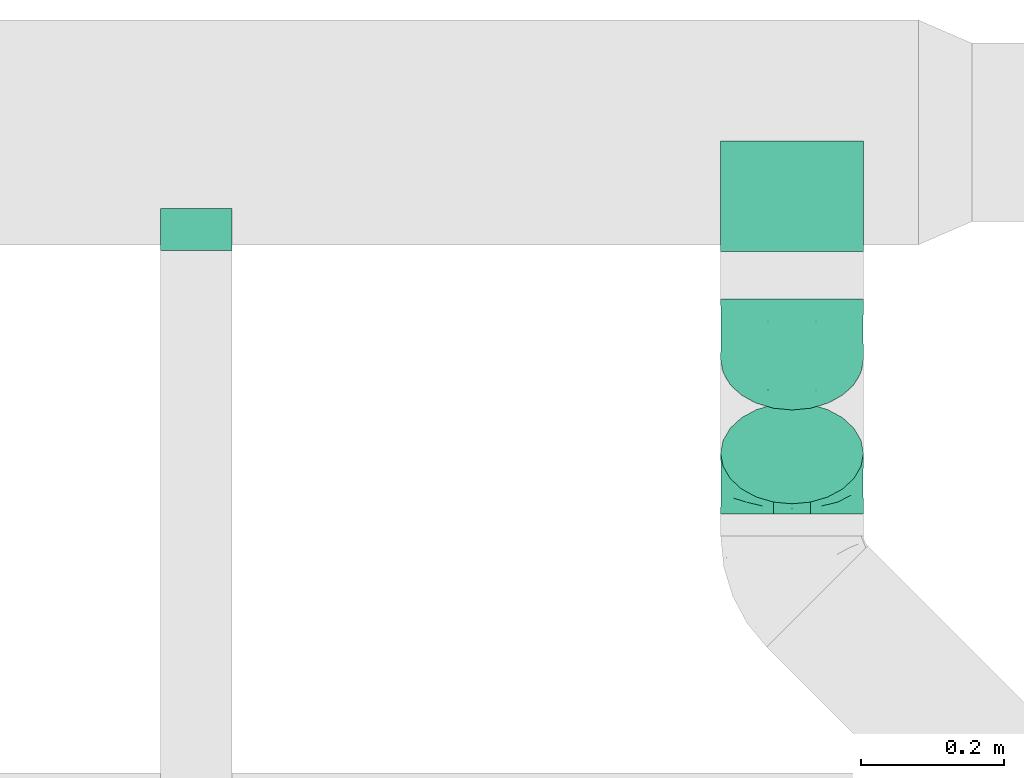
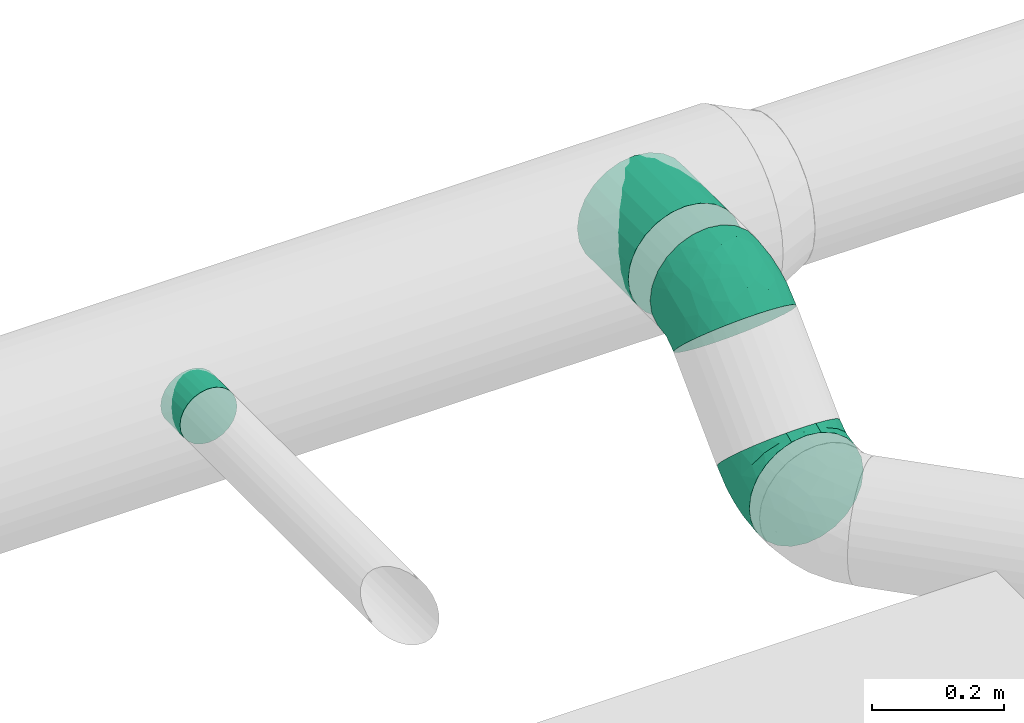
# One storey, part 14 of 16: 4 flow fittings.
"""IFC2X3 building model written with IfcOpenShell, lengths in millimetres."""

from ifc_helpers import new_model, entity, si_unit, converted_unit, derived_unit, direction, frame, origin_with_axes, place, context, subcontext, project, spatial, open_shell, surface_model, source, transform, mapped, type_object, element, save


model = new_model("IFC2X3")

# Units and contexts
model_context = context("Model", 3, precision=0.01, world=frame((0.0, 4.29681676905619e-09, 0.0)), true_north=direction((4.01073788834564e-13, 1.0)))
plan_context = context("Plan", 3, precision=0.01, world=frame((0.0, 4.29681676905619e-09, 0.0)), true_north=direction((4.01073788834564e-13, 1.0)))
body_context = subcontext(model_context, "Body", "Model", "MODEL_VIEW")
ifc_project = project(units=[converted_unit("PLANEANGLEUNIT", "DEGREE", entity("IfcPositiveLengthMeasure", 0.0174532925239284), si_unit("PLANEANGLEUNIT", "RADIAN"), dimensions=[0, 0, 0, 0, 0, 0, 0]), si_unit("AREAUNIT", "SQUARE_METRE"), si_unit("LENGTHUNIT", "METRE", prefix="MILLI"), si_unit("MASSUNIT", "GRAM", prefix="KILO"), si_unit("POWERUNIT", "WATT"), si_unit("PRESSUREUNIT", "PASCAL"), si_unit("FORCEUNIT", "NEWTON", prefix="KILO"), si_unit("ELECTRICVOLTAGEUNIT", "VOLT"), si_unit("ELECTRICCURRENTUNIT", "AMPERE"), si_unit("THERMODYNAMICTEMPERATUREUNIT", "DEGREE_CELSIUS"), si_unit("TIMEUNIT", "SECOND"), si_unit("VOLUMEUNIT", "CUBIC_METRE"), derived_unit("LINEARVELOCITYUNIT", [(si_unit("LENGTHUNIT", "METRE"), 1), (si_unit("TIMEUNIT", "SECOND"), -1)]), derived_unit("VOLUMETRICFLOWRATEUNIT", [(si_unit("VOLUMEUNIT", "CUBIC_METRE"), 1), (si_unit("TIMEUNIT", "SECOND"), -1)]), derived_unit("THERMALTRANSMITTANCEUNIT", [(si_unit("POWERUNIT", "WATT"), 1), (si_unit("THERMODYNAMICTEMPERATUREUNIT", "KELVIN"), -1), (si_unit("AREAUNIT", "SQUARE_METRE"), -1)]), derived_unit("SOUNDPRESSUREUNIT", [(si_unit("PRESSUREUNIT", "PASCAL"), 1)])], contexts=[model_context, plan_context])

# Site, building, storey
site_placement = place(None, frame((0.0, -4.29681676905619e-09, 0.0), z_axis=(0.0, 0.0, 1.0), x_axis=(1.0, 0.0, 0.0)))
site = spatial("IfcSite", under=ifc_project, at=site_placement, Name="ENGM", CompositionType="ELEMENT")
building_placement = place(site_placement, frame((0.0, 4.29681676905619e-09, 0.0), z_axis=(0.0, 0.0, 1.0), x_axis=(1.0, 0.0, 0.0)))
building = spatial("IfcBuilding", under=site, at=building_placement, Name="TH", CompositionType="ELEMENT")
storey_placement = place(building_placement, frame((0.0, 0.0, 210200.0), z_axis=(0.0, 0.0, 1.0), x_axis=(1.0, 0.0, 0.0)))
storey = spatial("IfcBuildingStorey", under=building, at=storey_placement, Name="Nivå F - 0,7 m", CompositionType="ELEMENT", Elevation=210200.0)

# Flow fittings
duct_fitting_type_1 = type_object("IfcDuctFittingType", Name="magicirc_tapoutlet_001", PredefinedType="CONNECTOR")
shared_shape_1 = source(origin_with_axes(), body_context, "Body", "SurfaceModel", [
    surface_model("IfcShellBasedSurfaceModel", [(-38.89949, 0.0, -50.0), (-38.89949, -12.94095, -48.29629), (-38.89949, 12.94095, -48.29629), (-38.89949, 48.29629, 12.94095), (-38.89949, 25.0, -43.30127), (-38.89949, 43.30127, -25.0), (-38.89949, 35.35534, -35.35534), (-38.89949, -50.0, 0.0), (-38.89949, -48.29629, 12.94095), (-38.89949, -35.35534, -35.35534), (-38.89949, -25.0, -43.30127), (-38.89949, -48.29629, -12.94095), (-38.89949, -43.30127, -25.0), (-38.89949, 48.29629, -12.94095), (-38.89949, 43.30127, 25.0), (-38.89949, 35.35534, 35.35534), (-38.89949, 25.0, 43.30127), (-38.89949, -12.94095, 48.29629), (-38.89949, 12.94095, 48.29629), (-38.89949, -43.30127, 25.0), (-38.89949, -35.35534, 35.35534), (-38.89949, -25.0, 43.30127), (-38.89949, 0.0, 50.0), (-38.89949, 50.0, 0.0), (0.0, 0.0, 50.0), (0.0, 12.94095, 48.29629), (0.0, 25.0, 43.30127), (0.0, 35.35534, 35.35534), (0.0, 48.29629, 12.94095), (0.0, 50.0, 0.0), (0.0, 43.30127, 25.0), (0.0, 48.29629, -12.94095), (0.0, 43.30127, -25.0), (0.0, 35.35534, -35.35534), (0.0, 12.94095, -48.29629), (0.0, 0.0, -50.0), (0.0, 25.0, -43.30127), (0.0, -12.94095, -48.29629), (0.0, -25.0, -43.30127), (0.0, -35.35534, -35.35534), (0.0, -43.30127, -25.0), (0.0, -48.29629, -12.94095), (0.0, -50.0, 0.0), (0.0, -48.29629, 12.94095), (0.0, -43.30127, 25.0), (0.0, -35.35534, 35.35534), (0.0, -12.94095, 48.29629), (0.0, -25.0, 43.30127), (20.0, 12.94095, -48.29629), (20.0, 50.0, 0.0), (20.0, 0.0, -50.0), (20.0, 25.0, -43.30127), (20.0, 35.35534, -35.35534), (20.0, 43.30127, -25.0), (20.0, -35.35534, -35.35534), (20.0, -48.29629, 12.94095), (20.0, -25.0, -43.30127), (20.0, -12.94095, -48.29629), (20.0, -43.30127, -25.0), (20.0, -48.29629, -12.94095), (20.0, -50.0, 0.0), (20.0, 48.29629, -12.94095), (20.0, 48.29629, 12.94095), (20.0, 43.30127, 25.0), (20.0, 35.35534, 35.35534), (20.0, 25.0, 43.30127), (20.0, 0.0, 50.0), (20.0, 12.94095, 48.29629), (20.0, -43.30127, 25.0), (20.0, -35.35534, 35.35534), (20.0, -25.0, 43.30127), (20.0, -12.94095, 48.29629)], [open_shell([[[0, 1, 2]], [[2, 3, 4]], [[5, 6, 3]], [[4, 3, 6]], [[2, 7, 8]], [[9, 7, 10]], [[1, 10, 7]], [[11, 7, 12]], [[9, 12, 7]], [[7, 2, 1]], [[5, 3, 13]], [[14, 3, 2]], [[15, 14, 2]], [[16, 2, 17]], [[16, 15, 2]], [[16, 17, 18]], [[8, 19, 2]], [[2, 19, 20]], [[2, 20, 21]], [[17, 2, 21]], [[17, 22, 18]], [[23, 13, 3]], [[22, 24, 25]], [[18, 25, 26]], [[22, 25, 18]], [[16, 27, 15]], [[16, 18, 26]], [[27, 16, 26]], [[28, 29, 3]], [[30, 28, 14]], [[15, 30, 14]], [[23, 3, 29]], [[28, 3, 14]], [[30, 15, 27]], [[23, 29, 31]], [[13, 31, 32]], [[23, 31, 13]], [[5, 33, 6]], [[5, 13, 32]], [[33, 5, 32]], [[34, 35, 0]], [[36, 34, 4]], [[6, 36, 4]], [[2, 4, 34]], [[0, 2, 34]], [[36, 6, 33]], [[0, 35, 37]], [[1, 37, 38]], [[0, 37, 1]], [[10, 39, 9]], [[10, 1, 38]], [[39, 10, 38]], [[12, 40, 41]], [[7, 41, 42]], [[9, 39, 12]], [[11, 12, 41]], [[41, 7, 11]], [[12, 39, 40]], [[7, 42, 43]], [[8, 43, 44]], [[7, 43, 8]], [[19, 45, 20]], [[19, 8, 44]], [[45, 19, 44]], [[46, 24, 22]], [[47, 46, 17]], [[21, 20, 47]], [[22, 17, 46]], [[21, 47, 17]], [[47, 20, 45]], [[48, 49, 50]], [[51, 49, 48]], [[49, 52, 53]], [[52, 49, 51]], [[54, 50, 55]], [[50, 54, 56]], [[56, 57, 50]], [[58, 55, 59]], [[55, 58, 54]], [[59, 55, 60]], [[53, 61, 49]], [[50, 62, 63]], [[50, 63, 64]], [[65, 66, 64]], [[66, 50, 64]], [[67, 66, 65]], [[50, 68, 55]], [[69, 68, 50]], [[70, 69, 50]], [[71, 70, 50]], [[71, 50, 66]], [[50, 49, 62]], [[24, 66, 67]], [[25, 67, 65]], [[24, 67, 25]], [[26, 64, 27]], [[26, 25, 65]], [[64, 26, 65]], [[30, 63, 62]], [[28, 62, 49]], [[27, 63, 30]], [[28, 30, 62]], [[29, 28, 49]], [[63, 27, 64]], [[29, 49, 61]], [[31, 61, 53]], [[29, 61, 31]], [[32, 52, 33]], [[32, 31, 53]], [[52, 32, 53]], [[36, 51, 48]], [[34, 48, 50]], [[33, 51, 36]], [[34, 36, 48]], [[35, 34, 50]], [[51, 33, 52]], [[35, 50, 57]], [[37, 57, 56]], [[35, 57, 37]], [[38, 54, 39]], [[38, 37, 56]], [[54, 38, 56]], [[40, 58, 59]], [[41, 59, 60]], [[39, 58, 40]], [[41, 40, 59]], [[42, 41, 60]], [[58, 39, 54]], [[42, 60, 55]], [[43, 55, 68]], [[42, 55, 43]], [[44, 69, 45]], [[44, 43, 68]], [[69, 44, 68]], [[47, 70, 71]], [[46, 71, 66]], [[45, 70, 47]], [[46, 47, 71]], [[24, 46, 66]], [[70, 45, 69]], [[58, 54, 55]], [[60, 59, 55]], [[68, 55, 50]], [[70, 50, 71]], [[66, 71, 50]], [[49, 62, 50]]])]),
])
flow_fitting_1_placement = place(storey_placement, frame((900918.80745, 486191.36076, 2803.20000000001), z_axis=(0.0, 0.0, -1.0), x_axis=(0.0, -1.0, 0.0)))
element("IfcFlowFitting", 1, at=flow_fitting_1_placement, inside=storey, type_object=duct_fitting_type_1, Name="magicirc_tapoutlet_001", context=body_context, shape_type="MappedRepresentation", body=[
    mapped(shared_shape_1, transform((0.0, 0.0, 0.0), scale=1.0)),
])
shared_shape_2 = source(origin_with_axes(), body_context, "Body", "SurfaceModel", [
    surface_model("IfcShellBasedSurfaceModel", [(20.0, 25.8819, 96.59259), (20.0, 0.0, 100.0), (20.0, -25.8819, 96.59259), (0.0, -50.0, 86.60254), (20.0, -50.0, 86.60254), (0.0, -25.8819, 96.59259), (0.0, -70.71068, 70.71068), (20.0, 70.71068, 70.71068), (0.0, 50.0, 86.60254), (20.0, 50.0, 86.60254), (0.0, 86.60254, 50.0), (20.0, 86.60254, 50.0), (20.0, 96.59259, 25.8819), (0.0, 96.59259, 25.8819), (20.0, 100.0, 0.0), (0.0, 70.71068, 70.71068), (0.0, 100.0, 0.0), (0.0, 70.71068, -70.71068), (20.0, 50.0, -86.60254), (0.0, 50.0, -86.60254), (20.0, -70.71068, -70.71068), (0.0, -50.0, -86.60254), (20.0, -50.0, -86.60254), (20.0, -86.60254, -50.0), (0.0, -70.71068, -70.71068), (0.0, -96.59259, -25.8819), (0.0, -86.60254, -50.0), (20.0, -96.59259, -25.8819), (20.0, 25.8819, -96.59259), (20.0, 0.0, -100.0), (20.0, 70.71068, -70.71068), (20.0, 86.60254, -50.0), (20.0, -96.59259, 25.8819), (20.0, -25.8819, -96.59259), (20.0, -100.0, 0.0), (20.0, 96.59259, -25.8819), (20.0, -70.71068, 70.71068), (20.0, -86.60254, 50.0), (0.0, 0.0, 100.0), (0.0, 25.8819, 96.59259), (0.0, 96.59259, -25.8819), (0.0, 86.60254, -50.0), (0.0, 25.8819, -96.59259), (0.0, 0.0, -100.0), (0.0, -25.8819, -96.59259), (0.0, -100.0, 0.0), (0.0, -96.59259, 25.8819), (0.0, -86.60254, 50.0), (-134.83603, 0.0, -100.0), (-134.83603, -25.8819, -96.59259), (-134.83603, 25.8819, -96.59259), (-134.83603, 96.59259, 25.8819), (-134.83603, 50.0, -86.60254), (-134.83603, 86.60254, -50.0), (-134.83603, 70.71068, -70.71068), (-134.83603, -100.0, 0.0), (-134.83603, -96.59259, 25.8819), (-134.83603, -70.71068, -70.71068), (-134.83603, -50.0, -86.60254), (-134.83603, -96.59259, -25.8819), (-134.83603, -86.60254, -50.0), (-134.83603, 96.59259, -25.8819), (-134.83603, 86.60254, 50.0), (-134.83603, 70.71068, 70.71068), (-134.83603, 50.0, 86.60254), (-134.83603, 25.8819, 96.59259), (-134.83603, 0.0, 100.0), (-134.83603, -86.60254, 50.0), (-134.83603, -70.71068, 70.71068), (-134.83603, -25.8819, 96.59259), (-134.83603, -50.0, 86.60254), (-134.83603, 100.0, 0.0)], [open_shell([[[0, 1, 2]], [[3, 4, 2]], [[5, 3, 2]], [[6, 4, 3]], [[7, 8, 9]], [[10, 11, 12]], [[13, 12, 14]], [[13, 10, 12]], [[15, 11, 10]], [[16, 13, 14]], [[17, 18, 19]], [[20, 21, 22]], [[23, 24, 20]], [[25, 26, 27]], [[24, 23, 26]], [[28, 14, 29]], [[18, 14, 28]], [[14, 30, 31]], [[14, 18, 30]], [[20, 29, 32]], [[29, 22, 33]], [[29, 20, 22]], [[23, 32, 27]], [[32, 23, 20]], [[34, 27, 32]], [[14, 31, 35]], [[12, 11, 29]], [[11, 7, 29]], [[0, 29, 9]], [[29, 7, 9]], [[29, 0, 2]], [[29, 36, 37]], [[32, 29, 37]], [[29, 4, 36]], [[2, 4, 29]], [[12, 29, 14]], [[38, 1, 0]], [[39, 0, 9]], [[38, 0, 39]], [[8, 7, 15]], [[8, 39, 9]], [[11, 15, 7]], [[16, 14, 35]], [[40, 35, 31]], [[16, 35, 40]], [[41, 30, 17]], [[41, 40, 31]], [[30, 41, 31]], [[28, 29, 42]], [[18, 28, 19]], [[43, 42, 29]], [[28, 42, 19]], [[18, 17, 30]], [[43, 29, 33]], [[44, 33, 22]], [[43, 33, 44]], [[21, 20, 24]], [[21, 44, 22]], [[26, 23, 27]], [[25, 27, 34]], [[45, 25, 34]], [[45, 34, 32]], [[46, 32, 37]], [[45, 32, 46]], [[47, 36, 6]], [[47, 46, 37]], [[36, 47, 37]], [[5, 2, 1]], [[38, 5, 1]], [[4, 6, 36]], [[31, 35, 14]], [[2, 29, 0]], [[29, 37, 32]], [[36, 37, 29]], [[36, 29, 4]], [[29, 14, 12]], [[48, 49, 50]], [[50, 51, 52]], [[53, 54, 51]], [[51, 54, 52]], [[50, 55, 56]], [[57, 55, 58]], [[50, 49, 58]], [[59, 55, 60]], [[57, 60, 55]], [[58, 55, 50]], [[61, 53, 51]], [[62, 51, 50]], [[50, 63, 62]], [[64, 50, 65]], [[64, 63, 50]], [[66, 65, 50]], [[67, 68, 50]], [[50, 56, 67]], [[69, 66, 70]], [[50, 68, 70]], [[70, 66, 50]], [[71, 61, 51]], [[65, 38, 39]], [[64, 39, 8]], [[66, 38, 65]], [[65, 39, 64]], [[8, 63, 64]], [[8, 15, 63]], [[51, 10, 13]], [[71, 13, 16]], [[15, 62, 63]], [[15, 10, 62]], [[62, 10, 51]], [[13, 71, 51]], [[40, 41, 61]], [[16, 40, 71]], [[61, 71, 40]], [[54, 53, 41]], [[61, 41, 53]], [[41, 17, 54]], [[50, 19, 42]], [[48, 42, 43]], [[17, 52, 54]], [[17, 19, 52]], [[52, 19, 50]], [[42, 48, 50]], [[49, 43, 44]], [[58, 44, 21]], [[48, 43, 49]], [[49, 44, 58]], [[21, 57, 58]], [[21, 24, 57]], [[59, 26, 25]], [[55, 25, 45]], [[24, 60, 57]], [[24, 26, 60]], [[60, 26, 59]], [[25, 55, 59]], [[56, 45, 46]], [[67, 46, 47]], [[55, 45, 56]], [[56, 46, 67]], [[47, 68, 67]], [[47, 6, 68]], [[69, 3, 5]], [[66, 5, 38]], [[6, 70, 68]], [[6, 3, 70]], [[70, 3, 69]], [[5, 66, 69]], [[54, 52, 51]], [[53, 51, 61]]])]),
])
flow_fitting_2_placement = place(storey_placement, frame((901753.5, 486189.98976, 2799.75511), z_axis=(0.0, 0.0, -1.0), x_axis=(0.0, -1.0, 0.0)))
element("IfcFlowFitting", 2, at=flow_fitting_2_placement, inside=storey, type_object=duct_fitting_type_1, Name="magicirc_tapoutlet_001", context=body_context, shape_type="MappedRepresentation", body=[
    mapped(shared_shape_2, transform((0.0, 0.0, 0.0), scale=1.0)),
])
duct_fitting_type_2 = type_object("IfcDuctFittingType", Name="magicirc_elbow_short_001", PredefinedType="BEND")
shared_shape_3 = source(origin_with_axes(), body_context, "Body", "SurfaceModel", [
    surface_model("IfcShellBasedSurfaceModel", [(-49.70565, 0.0, -100.0), (-49.70565, -70.71068, -70.71068), (-49.70565, 25.8819, -96.59259), (-49.70565, 50.0, -86.60254), (-49.70565, 70.71068, -70.71068), (-49.70565, 96.59259, -25.8819), (-49.70565, 86.60254, -50.0), (-49.70565, -86.60254, -50.0), (-49.70565, -50.0, -86.60254), (-49.70565, -25.8819, -96.59259), (-49.70565, -96.59259, -25.8819), (-49.70565, -100.0, 0.0), (-49.70565, 96.59259, 25.8819), (-49.70565, 25.8819, 96.59259), (-49.70565, 86.60254, 50.0), (-49.70565, 50.0, 86.60254), (-49.70565, 70.71068, 70.71068), (-49.70565, -25.8819, 96.59259), (-49.70565, -70.71068, 70.71068), (-49.70565, -50.0, 86.60254), (-49.70565, -86.60254, 50.0), (-49.70565, -96.59259, 25.8819), (-49.70565, 0.0, 100.0), (-49.70565, 100.0, 0.0), (16.84591, 53.44848, -96.59259), (96.38445, -26.09002, -50.0), (35.14719, 35.14721, -100.0), (-14.85282, 85.14719, -70.71068), (-0.20816, 70.50254, -86.60254), (-26.09007, 96.38443, -50.0), (-33.1541, 103.44846, -25.8819), (53.44847, 16.84595, -96.59259), (85.1472, -14.85277, -70.71068), (70.50254, -0.20812, -86.60254), (105.85789, -35.56345, 0.0), (103.44848, -33.15404, -25.8819), (-33.1541, 103.44846, 25.8819), (16.84591, 53.44848, 96.59259), (-26.09007, 96.38443, 50.0), (-14.85282, 85.14719, 70.71068), (-0.20816, 70.50254, 86.60254), (53.44847, 16.84595, 96.59259), (96.38445, -26.09002, 50.0), (70.50254, -0.20812, 86.60254), (85.1472, -14.85277, 70.71068), (103.44848, -33.15404, 25.8819), (35.14719, 35.14721, 100.0), (-35.56351, 105.85786, 0.0), (-6.65981, -78.69465, 55.32131), (-18.13184, -91.89202, 33.47276), (-24.86598, -97.5535, 0.0), (-6.78576, -95.77276, 0.0), (22.49479, -82.45996, 31.38069), (29.12437, -69.42701, 52.3949), (12.37742, -29.88175, 90.64522), (37.12406, -18.70606, 89.97421), (4.68854, -11.31914, 97.51858), (-18.231, -62.02139, 76.22982), (-13.02349, -39.47786, 89.97421), (22.87885, -55.23445, 71.73393), (-24.78682, -14.914, 98.5104), (-21.41192, 11.5723, 99.68416), (7.39001, 23.69873, 99.67584), (-15.97928, 38.57739, 94.78597), (-33.08075, 79.86395, 64.3352), (-23.56301, 62.37217, 82.35825), (34.48473, -83.25349, 0.0), (42.49434, -77.90549, 18.20625), (-42.05198, 101.52241, 0.0), (72.51984, -62.92329, 0.0), (86.56366, -51.39782, 0.0), (63.9186, -66.36327, 18.52111), (-38.64636, 93.30051, 41.23913), (50.71647, -68.4272, 35.42053), (77.79862, -52.1563, 33.47276), (60.35472, -50.93632, 55.3213), (28.07273, 6.98115, 98.51039), (56.747, -30.96448, 76.22981), (53.50229, -73.08838, 0.0), (13.84949, -89.51313, 0.0), (60.35473, -50.93631, -55.32131), (37.12407, -18.70605, -89.97421), (-21.98308, 11.532, -99.67584), (-24.78682, -14.91401, -98.51039), (-38.64636, 93.30051, -41.23913), (-33.08075, 79.86395, -64.3352), (-27.44224, 60.76535, -82.35825), (-15.97929, 38.57739, -94.78597), (12.37743, -29.88176, -90.64522), (22.87886, -55.23444, -71.73393), (-13.02349, -39.47786, -89.97421), (6.95765, 23.32335, -99.68416), (-6.6598, -78.69465, -55.32131), (-18.13183, -91.89201, -33.47277), (77.79862, -52.1563, -33.47277), (4.68854, -11.31915, -97.51858), (-18.231, -62.02139, -76.22982), (42.4018, -74.2142, -31.38069), (12.52339, -84.24729, -35.42053), (28.49829, -69.68634, -52.39491), (25.0395, -85.13552, -18.20625), (1.72867, -92.12319, -18.52111), (28.07273, 6.98115, -98.51039), (56.74701, -30.96446, -76.22982)], [open_shell([[[0, 1, 2]], [[3, 2, 4]], [[5, 6, 4]], [[7, 4, 2]], [[4, 7, 5]], [[8, 1, 9]], [[1, 0, 9]], [[10, 11, 7]], [[7, 2, 1]], [[7, 11, 5]], [[11, 12, 5]], [[13, 12, 11]], [[14, 12, 13]], [[13, 15, 16]], [[14, 13, 16]], [[17, 13, 11]], [[18, 19, 20]], [[21, 20, 19]], [[19, 17, 21]], [[21, 17, 11]], [[17, 22, 13]], [[12, 23, 5]], [[24, 25, 26]], [[27, 24, 28]], [[27, 29, 30]], [[27, 30, 24]], [[25, 24, 30]], [[31, 32, 33]], [[32, 31, 25]], [[25, 34, 35]], [[25, 31, 26]], [[30, 34, 25]], [[30, 36, 34]], [[37, 34, 36]], [[37, 36, 38]], [[39, 40, 37]], [[39, 37, 38]], [[34, 37, 41]], [[42, 43, 44]], [[43, 42, 45]], [[43, 45, 34]], [[41, 43, 34]], [[37, 46, 41]], [[36, 30, 47]], [[48, 20, 49]], [[50, 51, 49]], [[48, 52, 53]], [[54, 55, 56]], [[19, 57, 58]], [[58, 57, 59]], [[18, 20, 48]], [[56, 60, 58]], [[60, 22, 17]], [[13, 22, 61]], [[56, 62, 61]], [[17, 19, 58]], [[49, 20, 21]], [[15, 13, 63]], [[64, 65, 39]], [[64, 14, 16]], [[63, 13, 61]], [[19, 18, 57]], [[66, 67, 52]], [[68, 12, 36]], [[69, 70, 71]], [[68, 23, 12]], [[12, 14, 72]], [[73, 74, 75]], [[65, 15, 63]], [[60, 61, 22]], [[48, 49, 52]], [[18, 48, 57]], [[41, 76, 55]], [[49, 21, 50]], [[75, 42, 44]], [[43, 41, 55]], [[54, 59, 55]], [[74, 42, 75]], [[44, 43, 77]], [[55, 77, 43]], [[74, 70, 45]], [[52, 73, 53]], [[41, 46, 76]], [[56, 76, 62]], [[64, 38, 72]], [[63, 62, 37]], [[36, 72, 38]], [[73, 71, 74]], [[47, 68, 36]], [[37, 40, 63]], [[46, 37, 62]], [[77, 59, 75]], [[39, 65, 40]], [[42, 74, 45]], [[40, 65, 63]], [[61, 62, 63]], [[15, 65, 16]], [[59, 77, 55]], [[67, 78, 71]], [[75, 44, 77]], [[59, 57, 48]], [[65, 64, 16]], [[39, 38, 64]], [[53, 75, 59]], [[21, 11, 50]], [[75, 53, 73]], [[48, 53, 59]], [[58, 60, 17]], [[61, 60, 56]], [[62, 76, 46]], [[55, 76, 56]], [[71, 73, 67]], [[12, 72, 36]], [[73, 52, 67]], [[49, 79, 52]], [[78, 67, 66]], [[78, 69, 71]], [[74, 71, 70]], [[70, 34, 45]], [[64, 72, 14]], [[56, 58, 54]], [[59, 54, 58]], [[79, 49, 51]], [[79, 66, 52]], [[32, 25, 80]], [[31, 33, 81]], [[0, 2, 82]], [[83, 9, 0]], [[6, 84, 85]], [[28, 86, 27]], [[87, 3, 86]], [[3, 4, 86]], [[88, 89, 90]], [[24, 26, 91]], [[84, 5, 30]], [[92, 93, 7]], [[94, 35, 70]], [[93, 50, 10]], [[95, 82, 91]], [[96, 8, 90]], [[97, 98, 99]], [[96, 1, 8]], [[7, 93, 10]], [[98, 93, 92]], [[1, 92, 7]], [[8, 9, 90]], [[100, 79, 101]], [[96, 89, 92]], [[66, 100, 97]], [[5, 23, 68]], [[92, 1, 96]], [[68, 47, 30]], [[87, 82, 2]], [[95, 83, 82]], [[30, 29, 84]], [[28, 87, 86]], [[80, 97, 99]], [[3, 87, 2]], [[83, 90, 9]], [[28, 24, 87]], [[6, 85, 4]], [[81, 88, 95]], [[87, 24, 91]], [[81, 95, 102]], [[91, 82, 87]], [[89, 81, 103]], [[81, 33, 103]], [[94, 25, 35]], [[26, 31, 102]], [[94, 80, 25]], [[85, 86, 4]], [[94, 70, 69]], [[51, 50, 101]], [[98, 101, 93]], [[97, 80, 94]], [[33, 32, 103]], [[102, 91, 26]], [[89, 103, 80]], [[30, 5, 68]], [[89, 96, 90]], [[32, 80, 103]], [[29, 27, 85]], [[86, 85, 27]], [[99, 92, 89]], [[93, 101, 50]], [[92, 99, 98]], [[80, 99, 89]], [[82, 83, 0]], [[90, 83, 95]], [[81, 102, 31]], [[91, 102, 95]], [[101, 98, 100]], [[85, 84, 29]], [[98, 97, 100]], [[94, 78, 97]], [[79, 100, 66]], [[79, 51, 101]], [[50, 11, 10]], [[5, 84, 6]], [[35, 34, 70]], [[89, 88, 81]], [[90, 95, 88]], [[78, 94, 69]], [[78, 66, 97]]])]),
])
flow_fitting_3_placement = place(storey_placement, frame((901753.5, 486054.01328, 2799.75511), z_axis=(1.0, 0.0, 0.0), x_axis=(0.0, -1.0, 0.0)))
element("IfcFlowFitting", 3, at=flow_fitting_3_placement, inside=storey, type_object=duct_fitting_type_2, Name="magicirc_elbow_short_001", context=body_context, shape_type="MappedRepresentation", body=[
    mapped(shared_shape_3, transform((0.0, 0.0, 0.0), scale=1.0)),
])
shared_shape_4 = source(origin_with_axes(), body_context, "Body", "SurfaceModel", [
    surface_model("IfcShellBasedSurfaceModel", [(-49.70565, 0.0, -100.0), (-49.70565, -70.71068, -70.71068), (-49.70565, 25.8819, -96.59259), (-49.70565, 50.0, -86.60254), (-49.70565, 70.71068, -70.71068), (-49.70565, 96.59259, -25.8819), (-49.70565, 86.60254, -50.0), (-49.70565, -86.60254, -50.0), (-49.70565, -50.0, -86.60254), (-49.70565, -25.8819, -96.59259), (-49.70565, -96.59259, -25.8819), (-49.70565, -100.0, 0.0), (-49.70565, 96.59259, 25.8819), (-49.70565, 25.8819, 96.59259), (-49.70565, 86.60254, 50.0), (-49.70565, 50.0, 86.60254), (-49.70565, 70.71068, 70.71068), (-49.70565, -25.8819, 96.59259), (-49.70565, -70.71068, 70.71068), (-49.70565, -50.0, 86.60254), (-49.70565, -86.60254, 50.0), (-49.70565, -96.59259, 25.8819), (-49.70565, 0.0, 100.0), (-49.70565, 100.0, 0.0), (16.84591, 53.44848, -96.59259), (96.38445, -26.09002, -50.0), (35.14719, 35.14721, -100.0), (-14.85282, 85.14719, -70.71068), (-0.20816, 70.50254, -86.60254), (-26.09007, 96.38443, -50.0), (-33.1541, 103.44846, -25.8819), (53.44847, 16.84595, -96.59259), (85.1472, -14.85277, -70.71068), (70.50254, -0.20812, -86.60254), (105.85789, -35.56345, 0.0), (103.44848, -33.15404, -25.8819), (-33.1541, 103.44846, 25.8819), (16.84591, 53.44848, 96.59259), (-26.09007, 96.38443, 50.0), (-14.85282, 85.14719, 70.71068), (-0.20816, 70.50254, 86.60254), (53.44847, 16.84595, 96.59259), (96.38445, -26.09002, 50.0), (70.50254, -0.20812, 86.60254), (85.1472, -14.85277, 70.71068), (103.44848, -33.15404, 25.8819), (35.14719, 35.14721, 100.0), (-35.56351, 105.85786, 0.0), (-24.86598, -97.5535, 0.0), (-6.78576, -95.77276, 0.0), (-18.13184, -91.89202, 33.47276), (12.37742, -29.88175, 90.64522), (37.12406, -18.70606, 89.97421), (4.68854, -11.31914, 97.51858), (-18.231, -62.02139, 76.22982), (-13.02349, -39.47786, 89.97421), (22.87885, -55.23445, 71.73393), (-24.78682, -14.914, 98.5104), (-21.41192, 11.5723, 99.68416), (-15.97928, 38.57739, 94.78597), (-33.08075, 79.86395, 64.3352), (-23.56301, 62.37217, 82.35825), (34.48473, -83.25349, 0.0), (42.49434, -77.90549, 18.20625), (22.49479, -82.45996, 31.38069), (-42.05198, 101.52241, 0.0), (72.51984, -62.92329, 0.0), (86.56366, -51.39782, 0.0), (63.9186, -66.36327, 18.52111), (-38.64636, 93.30051, 41.23913), (50.71647, -68.4272, 35.42053), (77.79862, -52.1563, 33.47276), (60.35472, -50.93632, 55.3213), (28.07273, 6.98115, 98.51039), (56.747, -30.96448, 76.22981), (29.12437, -69.42701, 52.3949), (53.50229, -73.08838, 0.0), (13.84949, -89.51313, 0.0), (60.35473, -50.93631, -55.32131), (37.12407, -18.70605, -89.97421), (-21.98308, 11.532, -99.67584), (-24.78682, -14.91401, -98.51039), (-38.64636, 93.30051, -41.23913), (-33.08075, 79.86395, -64.3352), (-27.44224, 60.76535, -82.35825), (12.37743, -29.88176, -90.64522), (22.87886, -55.23444, -71.73393), (-13.02349, -39.47786, -89.97421), (6.95765, 23.32335, -99.68416), (-6.6598, -78.69465, -55.32131), (-18.13183, -91.89201, -33.47277), (77.79862, -52.1563, -33.47277), (4.68854, -11.31915, -97.51858), (-18.231, -62.02139, -76.22982), (42.4018, -74.2142, -31.38069), (12.52339, -84.24729, -35.42053), (28.49829, -69.68634, -52.39491), (25.0395, -85.13552, -18.20625), (1.72867, -92.12319, -18.52111), (28.07273, 6.98115, -98.51039), (56.74701, -30.96446, -76.22982), (-6.65981, -78.69465, 55.32131), (7.39001, 23.69873, 99.67584), (-15.97929, 38.57739, -94.78597)], [open_shell([[[0, 1, 2]], [[3, 2, 4]], [[5, 6, 4]], [[7, 4, 2]], [[4, 7, 5]], [[8, 1, 9]], [[1, 0, 9]], [[10, 11, 7]], [[7, 2, 1]], [[7, 11, 5]], [[11, 12, 5]], [[13, 12, 11]], [[14, 12, 13]], [[13, 15, 16]], [[14, 13, 16]], [[17, 13, 11]], [[18, 19, 20]], [[21, 20, 19]], [[19, 17, 21]], [[21, 17, 11]], [[17, 22, 13]], [[12, 23, 5]], [[24, 25, 26]], [[27, 24, 28]], [[27, 29, 30]], [[27, 30, 24]], [[25, 24, 30]], [[31, 32, 33]], [[32, 31, 25]], [[25, 34, 35]], [[25, 31, 26]], [[30, 34, 25]], [[30, 36, 34]], [[37, 34, 36]], [[37, 36, 38]], [[39, 40, 37]], [[39, 37, 38]], [[34, 37, 41]], [[42, 43, 44]], [[43, 42, 45]], [[43, 45, 34]], [[41, 43, 34]], [[37, 46, 41]], [[36, 30, 47]], [[48, 49, 50]], [[51, 52, 53]], [[19, 54, 55]], [[55, 54, 56]], [[53, 57, 55]], [[57, 22, 17]], [[13, 22, 58]], [[17, 19, 55]], [[50, 20, 21]], [[15, 13, 59]], [[60, 61, 39]], [[60, 14, 16]], [[59, 13, 58]], [[19, 18, 54]], [[62, 63, 64]], [[65, 12, 36]], [[66, 67, 68]], [[65, 23, 12]], [[12, 14, 69]], [[70, 71, 72]], [[61, 15, 59]], [[57, 58, 22]], [[41, 73, 52]], [[50, 21, 48]], [[72, 42, 44]], [[43, 41, 52]], [[51, 56, 52]], [[71, 42, 72]], [[44, 43, 74]], [[52, 74, 43]], [[71, 67, 45]], [[64, 70, 75]], [[41, 46, 73]], [[60, 38, 69]], [[36, 69, 38]], [[70, 68, 71]], [[47, 65, 36]], [[37, 40, 59]], [[74, 56, 72]], [[39, 61, 40]], [[42, 71, 45]], [[40, 61, 59]], [[15, 61, 16]], [[56, 74, 52]], [[63, 76, 68]], [[72, 44, 74]], [[61, 60, 16]], [[39, 38, 60]], [[75, 72, 56]], [[21, 11, 48]], [[72, 75, 70]], [[55, 57, 17]], [[58, 57, 53]], [[52, 73, 53]], [[68, 70, 63]], [[12, 69, 36]], [[70, 64, 63]], [[50, 77, 64]], [[76, 63, 62]], [[76, 66, 68]], [[71, 68, 67]], [[67, 34, 45]], [[60, 69, 14]], [[53, 55, 51]], [[56, 51, 55]], [[77, 50, 49]], [[77, 62, 64]], [[32, 25, 78]], [[31, 33, 79]], [[0, 2, 80]], [[81, 9, 0]], [[6, 82, 83]], [[28, 84, 27]], [[3, 4, 84]], [[85, 86, 87]], [[24, 26, 88]], [[82, 5, 30]], [[89, 90, 7]], [[91, 35, 67]], [[90, 48, 10]], [[92, 80, 88]], [[93, 8, 87]], [[94, 95, 96]], [[93, 1, 8]], [[7, 90, 10]], [[95, 90, 89]], [[1, 89, 7]], [[8, 9, 87]], [[97, 77, 98]], [[93, 86, 89]], [[62, 97, 94]], [[5, 23, 65]], [[89, 1, 93]], [[65, 47, 30]], [[92, 81, 80]], [[30, 29, 82]], [[78, 94, 96]], [[81, 87, 9]], [[6, 83, 4]], [[79, 85, 92]], [[79, 92, 99]], [[86, 79, 100]], [[79, 33, 100]], [[91, 25, 35]], [[26, 31, 99]], [[91, 78, 25]], [[83, 84, 4]], [[91, 67, 66]], [[49, 48, 98]], [[95, 98, 90]], [[94, 78, 91]], [[33, 32, 100]], [[99, 88, 26]], [[86, 100, 78]], [[30, 5, 65]], [[86, 93, 87]], [[32, 78, 100]], [[29, 27, 83]], [[84, 83, 27]], [[96, 89, 86]], [[90, 98, 48]], [[89, 96, 95]], [[78, 96, 86]], [[80, 81, 0]], [[87, 81, 92]], [[79, 99, 31]], [[88, 99, 92]], [[98, 95, 97]], [[83, 82, 29]], [[95, 94, 97]], [[91, 76, 94]], [[77, 97, 62]], [[77, 49, 98]], [[48, 11, 10]], [[5, 82, 6]], [[35, 34, 67]], [[86, 85, 79]], [[87, 92, 85]], [[76, 91, 66]], [[76, 62, 94]], [[101, 20, 50]], [[101, 64, 75]], [[18, 20, 101]], [[53, 102, 58]], [[101, 50, 64]], [[18, 101, 54]], [[53, 73, 102]], [[59, 102, 37]], [[46, 37, 102]], [[58, 102, 59]], [[56, 54, 101]], [[101, 75, 56]], [[102, 73, 46]], [[103, 3, 84]], [[103, 80, 2]], [[28, 103, 84]], [[3, 103, 2]], [[28, 24, 103]], [[103, 24, 88]], [[88, 80, 103]]])]),
])
flow_fitting_4_placement = place(storey_placement, frame((901753.5, 485852.25829, 2598.0), z_axis=(-1.0, 0.0, 0.0), x_axis=(0.0, -0.707106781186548, -0.707106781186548)))
element("IfcFlowFitting", 4, at=flow_fitting_4_placement, inside=storey, type_object=duct_fitting_type_2, Name="magicirc_elbow_short_001", context=body_context, shape_type="MappedRepresentation", body=[
    mapped(shared_shape_4, transform((0.0, 0.0, 0.0), scale=1.0)),
])

save(model, "model.ifc")
